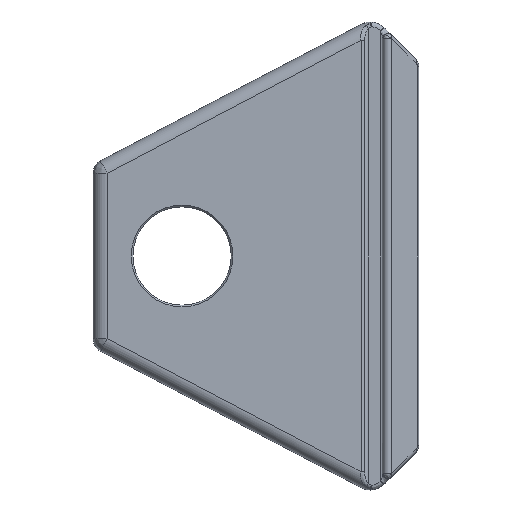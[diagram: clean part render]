
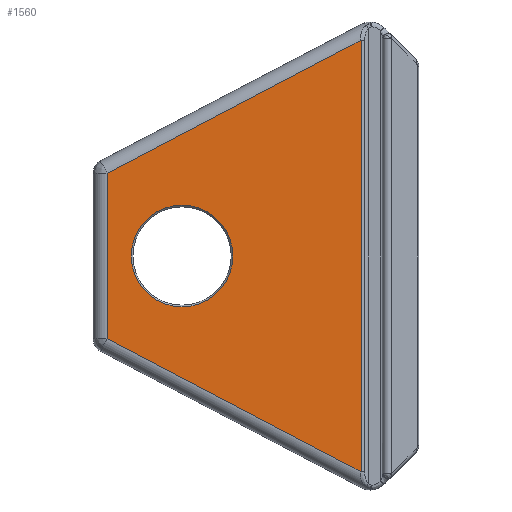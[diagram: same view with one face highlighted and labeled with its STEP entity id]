
A CAD part, left-side view. The second image highlights one B-rep face of the part: STEP entity #1560.
In plain terms, the highlighted planar face has unit normal (-1, 0, 0).
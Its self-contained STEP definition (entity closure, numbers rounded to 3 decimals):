
#41 = CARTESIAN_POINT ( 'NONE',  ( -2.75, 1.369, 23.569 ) ) ;
#138 = LINE ( 'NONE', #41, #186 ) ;
#186 = VECTOR ( 'NONE', #432, 1000. ) ;
#236 = CARTESIAN_POINT ( 'NONE',  ( -2.75, 21.5, 0. ) ) ;
#287 = AXIS2_PLACEMENT_3D ( 'NONE', #2919, #3566, #2855 ) ;
#432 = DIRECTION ( 'NONE',  ( 0., -0.886, 0.464 ) ) ;
#439 = LINE ( 'NONE', #2361, #471 ) ;
#471 = VECTOR ( 'NONE', #2292, 1000. ) ;
#516 = DIRECTION ( 'NONE',  ( 0., 0., 1. ) ) ;
#586 = ORIENTED_EDGE ( 'NONE', *, *, #3402, .T. ) ;
#598 = ORIENTED_EDGE ( 'NONE', *, *, #1869, .T. ) ;
#634 = ORIENTED_EDGE ( 'NONE', *, *, #1100, .F. ) ;
#667 = ORIENTED_EDGE ( 'NONE', *, *, #2043, .F. ) ;
#713 = VECTOR ( 'NONE', #2413, 1000. ) ;
#715 = ORIENTED_EDGE ( 'NONE', *, *, #2858, .F. ) ;
#718 = LINE ( 'NONE', #2782, #713 ) ;
#766 = ORIENTED_EDGE ( 'NONE', *, *, #912, .F. ) ;
#813 = EDGE_LOOP ( 'NONE', ( #634, #667, #715, #766 ) ) ;
#856 = VERTEX_POINT ( 'NONE', #2477 ) ;
#857 = EDGE_LOOP ( 'NONE', ( #586, #598 ) ) ;
#912 = EDGE_CURVE ( 'NONE', #1624, #2316, #718, .T. ) ;
#1007 = CARTESIAN_POINT ( 'NONE',  ( -2.75, 2.38, 25.5 ) ) ;
#1100 = EDGE_CURVE ( 'NONE', #1631, #1624, #439, .T. ) ;
#1148 = AXIS2_PLACEMENT_3D ( 'NONE', #1751, #1758, #1762 ) ;
#1273 = DIRECTION ( 'NONE',  ( 0., 0., -1. ) ) ;
#1560 = ADVANCED_FACE ( 'NONE', ( #3427, #3510 ), #2884, .F. ) ;
#1624 = VERTEX_POINT ( 'NONE', #2218 ) ;
#1631 = VERTEX_POINT ( 'NONE', #2264 ) ;
#1654 = CARTESIAN_POINT ( 'NONE',  ( -2.75, 21.5, 5.43 ) ) ;
#1681 = VERTEX_POINT ( 'NONE', #1654 ) ;
#1746 = CARTESIAN_POINT ( 'NONE',  ( -2.75, 21.5, -5.43 ) ) ;
#1751 = CARTESIAN_POINT ( 'NONE',  ( -2.75, 21.5, 0. ) ) ;
#1758 = DIRECTION ( 'NONE',  ( 1., 0., 0. ) ) ;
#1762 = DIRECTION ( 'NONE',  ( 0., 0., 1. ) ) ;
#1869 = EDGE_CURVE ( 'NONE', #3656, #1681, #2740, .T. ) ;
#2043 = EDGE_CURVE ( 'NONE', #856, #1631, #2304, .T. ) ;
#2089 = AXIS2_PLACEMENT_3D ( 'NONE', #236, #2215, #516 ) ;
#2215 = DIRECTION ( 'NONE',  ( 1., 0., 0. ) ) ;
#2218 = CARTESIAN_POINT ( 'NONE',  ( -2.75, 29.5, -8.842 ) ) ;
#2263 = VECTOR ( 'NONE', #1273, 1000. ) ;
#2264 = CARTESIAN_POINT ( 'NONE',  ( -2.75, 2.38, -23.04 ) ) ;
#2292 = DIRECTION ( 'NONE',  ( 0., 0.886, 0.464 ) ) ;
#2304 = LINE ( 'NONE', #1007, #2263 ) ;
#2316 = VERTEX_POINT ( 'NONE', #2956 ) ;
#2361 = CARTESIAN_POINT ( 'NONE',  ( -2.75, 22.325, -12.598 ) ) ;
#2413 = DIRECTION ( 'NONE',  ( 0., 0., 1. ) ) ;
#2477 = CARTESIAN_POINT ( 'NONE',  ( -2.75, 2.38, 23.04 ) ) ;
#2740 = CIRCLE ( 'NONE', #1148, 5.43 ) ;
#2782 = CARTESIAN_POINT ( 'NONE',  ( -2.75, 29.5, 25.5 ) ) ;
#2855 = DIRECTION ( 'NONE',  ( 0., 1., 0. ) ) ;
#2858 = EDGE_CURVE ( 'NONE', #2316, #856, #138, .T. ) ;
#2884 = PLANE ( 'NONE',  #287 ) ;
#2919 = CARTESIAN_POINT ( 'NONE',  ( -2.75, 2.38, 25.5 ) ) ;
#2956 = CARTESIAN_POINT ( 'NONE',  ( -2.75, 29.5, 8.842 ) ) ;
#3144 = CIRCLE ( 'NONE', #2089, 5.43 ) ;
#3402 = EDGE_CURVE ( 'NONE', #1681, #3656, #3144, .T. ) ;
#3427 = FACE_BOUND ( 'NONE', #857, .T. ) ;
#3510 = FACE_OUTER_BOUND ( 'NONE', #813, .T. ) ;
#3566 = DIRECTION ( 'NONE',  ( 1., 0., 0. ) ) ;
#3656 = VERTEX_POINT ( 'NONE', #1746 ) ;
